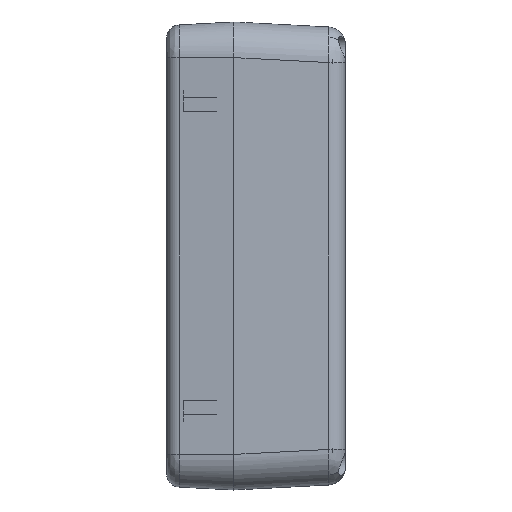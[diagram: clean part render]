
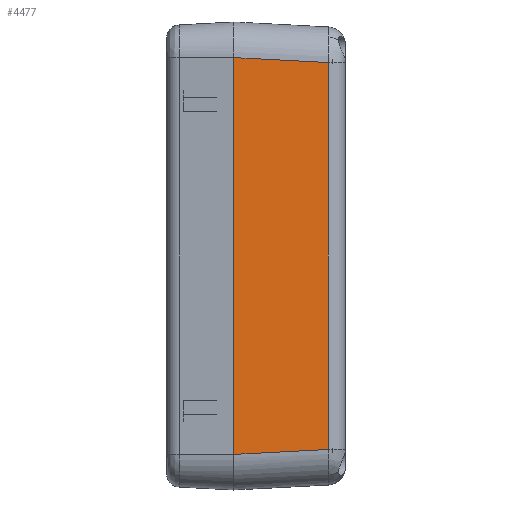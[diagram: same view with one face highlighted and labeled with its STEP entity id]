
A CAD part, left-side view. The second image highlights one B-rep face of the part: STEP entity #4477.
In plain terms, the highlighted planar face has unit normal (-0.999, -0.052, 0).
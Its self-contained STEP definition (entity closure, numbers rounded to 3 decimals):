
#74 = DIRECTION ( 'NONE',  ( 0., 0., 1. ) ) ;
#995 = EDGE_CURVE ( 'NONE', #5096, #12936, #5254, .T. ) ;
#2189 = VECTOR ( 'NONE', #7475, 1000. ) ;
#2735 = CARTESIAN_POINT ( 'NONE',  ( -80., 0., -42.011 ) ) ;
#2958 = EDGE_CURVE ( 'NONE', #18640, #12936, #22645, .T. ) ;
#3240 = CARTESIAN_POINT ( 'NONE',  ( -80., 0., 55. ) ) ;
#3359 = ORIENTED_EDGE ( 'NONE', *, *, #995, .F. ) ;
#3408 = PLANE ( 'NONE',  #7590 ) ;
#4477 = ADVANCED_FACE ( 'NONE', ( #10476 ), #3408, .T. ) ;
#4959 = VERTEX_POINT ( 'NONE', #11815 ) ;
#5096 = VERTEX_POINT ( 'NONE', #2735 ) ;
#5254 = LINE ( 'NONE', #10189, #9780 ) ;
#6912 = VECTOR ( 'NONE', #74, 1000. ) ;
#7236 = DIRECTION ( 'NONE',  ( 0.052, -0.999, 0. ) ) ;
#7475 = DIRECTION ( 'NONE',  ( -0.052, 0.997, 0.052 ) ) ;
#7590 = AXIS2_PLACEMENT_3D ( 'NONE', #3240, #18792, #7236 ) ;
#8871 = ORIENTED_EDGE ( 'NONE', *, *, #13701, .T. ) ;
#9435 = CARTESIAN_POINT ( 'NONE',  ( -80.022, 0.416, 47.033 ) ) ;
#9780 = VECTOR ( 'NONE', #15997, 1000. ) ;
#10189 = CARTESIAN_POINT ( 'NONE',  ( -80., 0., 55. ) ) ;
#10476 = FACE_OUTER_BOUND ( 'NONE', #20579, .T. ) ;
#11815 = CARTESIAN_POINT ( 'NONE',  ( -78.888, -21.209, -40.899 ) ) ;
#12053 = LINE ( 'NONE', #21164, #6912 ) ;
#12936 = VERTEX_POINT ( 'NONE', #14172 ) ;
#13701 = EDGE_CURVE ( 'NONE', #5096, #4959, #15215, .T. ) ;
#14172 = CARTESIAN_POINT ( 'NONE',  ( -80., 0., 47.011 ) ) ;
#15165 = CARTESIAN_POINT ( 'NONE',  ( -79.735, -5.056, -41.746 ) ) ;
#15215 = LINE ( 'NONE', #15165, #24840 ) ;
#15997 = DIRECTION ( 'NONE',  ( 0., 0., 1. ) ) ;
#17111 = DIRECTION ( 'NONE',  ( 0.052, -0.997, 0.052 ) ) ;
#17199 = ORIENTED_EDGE ( 'NONE', *, *, #20785, .T. ) ;
#18640 = VERTEX_POINT ( 'NONE', #21939 ) ;
#18792 = DIRECTION ( 'NONE',  ( -0.999, -0.052, 0. ) ) ;
#20579 = EDGE_LOOP ( 'NONE', ( #8871, #17199, #22577, #3359 ) ) ;
#20785 = EDGE_CURVE ( 'NONE', #4959, #18640, #12053, .T. ) ;
#21164 = CARTESIAN_POINT ( 'NONE',  ( -78.888, -21.209, 55. ) ) ;
#21939 = CARTESIAN_POINT ( 'NONE',  ( -78.888, -21.209, 45.899 ) ) ;
#22577 = ORIENTED_EDGE ( 'NONE', *, *, #2958, .T. ) ;
#22645 = LINE ( 'NONE', #9435, #2189 ) ;
#24840 = VECTOR ( 'NONE', #17111, 1000. ) ;
